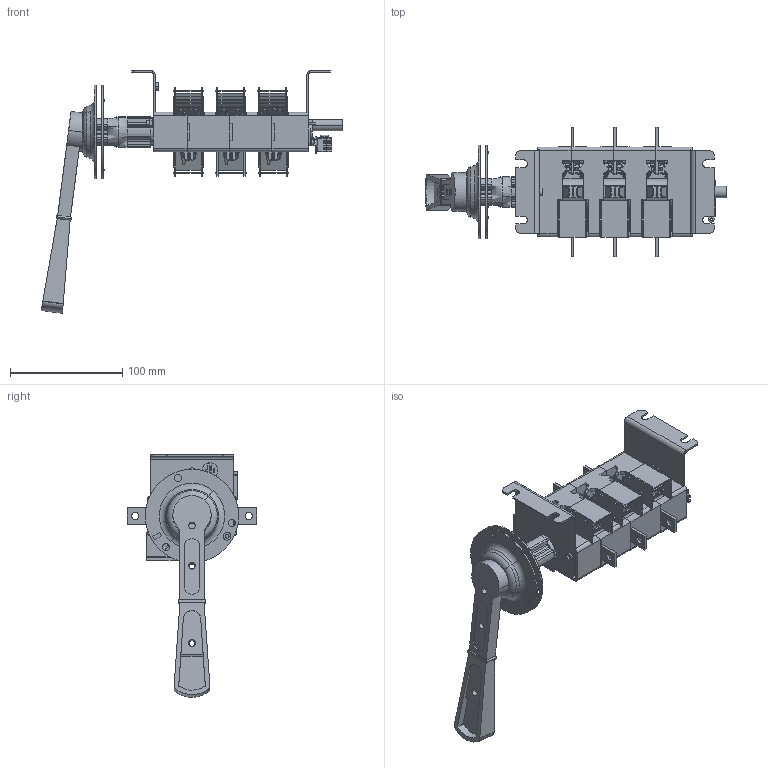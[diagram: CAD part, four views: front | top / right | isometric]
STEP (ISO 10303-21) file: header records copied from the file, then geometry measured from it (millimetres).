
FILE_DESCRIPTION (( 'STEP AP214' ), '1' );
FILE_NAME ('ﾂﾐ32-31ﾔ ﾃﾆﾈﾊ.642423.007-00 (ﾂ31251-100ﾀ).STEP', '2022-07-14T06:40:04', ( '' ), ( '' ), 'SwSTEP 2.0', 'SolidWorks 2018', '' );
FILE_SCHEMA (( 'AUTOMOTIVE_DESIGN' ));
Length unit declared in the file: millimetre
Products named in the file (39): ÑêîáàÃÆÈÊ.746743.004; Òàáëè÷êà äëÿ ñáîðêè ÷èñòàÿ; Ïðîêëàäêà ÃÆÈÊ.741233.006_-01(¤«ï ç¥àâ¥¦ ); ﾘ琺矜 ﾃﾆﾈﾊ.758491.056; Âàë ÃÆÈÊ.715274.009_ƒ†ˆŠ.715274.009; 暑痫篑 镳噔 闷仁.735384.079; ﾊ煇鳫 ﾃﾆﾈﾊ.745357.005; Êàìåðà äóãîãàñèòåëüíàÿ ÃÆÈÊ.686431.023_01(¯à®¢®«®ª ); Ãàéêà Ì4; Êîðïóñ ñðåäíèé ÃÆÈÊ.735384.080; Òàáëè÷êà äëÿ ñáîðêè ÷èñòàÿ áîëüøàÿ; 想囫蜩磬 (牮赅); 栺樇罻; Ïëàñòèíà óïðàâëåíèÿ; 想囫蜩磬_-01 (帷獱); ﾘ琺矜 D32; 噪囗弼 闷仁.712378.001; ﾎﾁﾎﾋﾎﾗﾊﾀ_ﾍ; Ñêîáà ÃÆÈÊ.745326.032_“áâ ­®¢«¥­­®¥ á®áâ; 澡犟囹铕 闷仁.745484.014; ﾘ琺矜 D15; 买箅赅 闷仁.713141.009; ÈñêðîãàñèòåëüÃÆÈÊ.686433.006; Âèíò Â.Ì4-6g_-00 (Œ4å8); Êîíòàêò ïîäâèæíûé ÃÆÈÊ.745355.054; Êîðïóñ ëåâûé ÃÆÈÊ.735384.081; Øïèëüêà ñïåöèàëüíàÿ ÃÆÈÊ.754292.014_-01(à¥§ì¡ ); ﾏ跖浯 ﾃﾆﾈﾊ.753553.010; 枔膴闀歑樏錌欑蠈錪 蟠61; 蓐聆屙蝠桕 闷仁.751621.001; Ðóêîÿòêà ÃÆÈÊ.303658.010; ÈñêðîãàñèòåëüÃÆÈÊ741271005_sborka; Áîêîâèíà ëåâàÿ ÃÆÈÊ.735224.023_-01 (à¥§ì¡ ); ﾂ鏆鮏 ﾃﾆﾈﾊ.745485.002; Áîêîâèíà ïðàâàÿ ÃÆÈÊ.735224.022; ﾂ琿 ﾃﾆﾈﾊ.303731.003; Èñêðîãàñèòåëü; ﾂﾐ32-31ﾔ ﾃﾆﾈﾊ.642423.007-00 (ﾂ31251-100ﾀ); ﾘ琺矜 4
Assembly tree (70 placements, depth 4):
  ﾂﾐ32-31ﾔ ﾃﾆﾈﾊ.642423.007-00 (ﾂ31251-100ﾀ)
    暑痫篑 镳噔 闷仁.735384.079
    Êîðïóñ ëåâûé ÃÆÈÊ.735384.081
    Êîðïóñ ñðåäíèé ÃÆÈÊ.735384.080  x2
    Áîêîâèíà ïðàâàÿ ÃÆÈÊ.735224.022
    Áîêîâèíà ëåâàÿ ÃÆÈÊ.735224.023_-01 (à¥§ì¡ )
    Ïðîêëàäêà ÃÆÈÊ.741233.006_-01(¤«ï ç¥àâ¥¦ )  x2
    蓐聆屙蝠桕 闷仁.751621.001
    ﾊ煇鳫 ﾃﾆﾈﾊ.745357.005
    枔膴闀歑樏錌欑蠈錪 蟠61
    Âèíò Â.Ì4-6g_-00 (Œ4å8)
    ﾘ琺矜 4  x3
    Ãàéêà Ì4  x2
    Øïèëüêà ñïåöèàëüíàÿ ÃÆÈÊ.754292.014_-01(à¥§ì¡ )  x2
    ﾂ鏆鮏 ﾃﾆﾈﾊ.745485.002  x6
    买箅赅 闷仁.713141.009
    噪囗弼 闷仁.712378.001
    Ðóêîÿòêà ÃÆÈÊ.303658.010
      ﾘ琺矜 D32
      ﾘ琺矜 D15
      Ïëàñòèíà óïðàâëåíèÿ
      想囫蜩磬_-01 (帷獱)
      ﾎﾁﾎﾋﾎﾗﾊﾀ_ﾍ
    Êàìåðà äóãîãàñèòåëüíàÿ ÃÆÈÊ.686431.023_01(¯à®¢®«®ª )  x6
      想囫蜩磬 (牮赅)
      栺樇罻
      Èñêðîãàñèòåëü
      ÈñêðîãàñèòåëüÃÆÈÊ.686433.006
        ÈñêðîãàñèòåëüÃÆÈÊ741271005_sborka
        ÑêîáàÃÆÈÊ.746743.004
    Òàáëè÷êà äëÿ ñáîðêè ÷èñòàÿ
    Òàáëè÷êà äëÿ ñáîðêè ÷èñòàÿ áîëüøàÿ
    ﾘ琺矜 ﾃﾆﾈﾊ.758491.056
    ﾂ琿 ﾃﾆﾈﾊ.303731.003
      Âàë ÃÆÈÊ.715274.009_ƒ†ˆŠ.715274.009
      Êîíòàêò ïîäâèæíûé ÃÆÈÊ.745355.054  x6
      Ñêîáà ÃÆÈÊ.745326.032_“áâ ­®¢«¥­­®¥ á®áâ  x6
    ﾏ跖浯 ﾃﾆﾈﾊ.753553.010  x2
    澡犟囹铕 闷仁.745484.014  x2
Bounding box: 268.36 x 115.12 x 215.88 mm (x, y, z)
Volume: 324712.4 mm3; surface area: 283477.7 mm2
Topology: 107 solids, 107 shells, 4790 faces, 12801 edges, 8289 vertices
Faces by surface type: plane 3242, cylinder 1159, bspline 177, torus 154, cone 50, sphere 8
Entity records: 136091 total; most frequent: CARTESIAN_POINT 82661, ORIENTED_EDGE 10312, DIRECTION 9982, EDGE_CURVE 5156, VERTEX_POINT 3365, AXIS2_PLACEMENT_3D 3357, VECTOR 3268, LINE 3268
